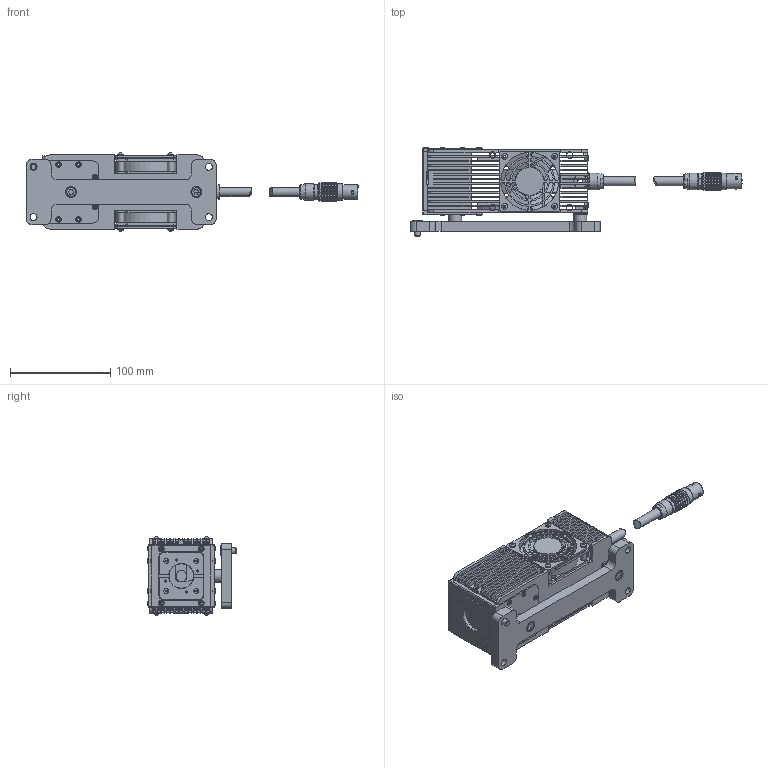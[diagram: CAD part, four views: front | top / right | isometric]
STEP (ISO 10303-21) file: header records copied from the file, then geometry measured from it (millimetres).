
FILE_DESCRIPTION (( 'STEP AP203' ), '1' );
FILE_NAME ('PQ.080.0000.0007.12_LDH-I_XXX.step', '2025-05-23T08:40:39', ( '' ), ( '' ), 'SwSTEP 2.0', 'SolidWorks 2019', '' );
FILE_SCHEMA (( 'CONFIG_CONTROL_DESIGN' ));
Length unit declared in the file: millimetre
Products named in the file (1): PQ.080.0000.0007.12_LDH-I_XXX
Bounding box: 331.5 x 88.7 x 77.9 mm (x, y, z)
Surface area: 190033.4 mm2 (no closed solid volume)
Topology: 0 solids, 77 shells, 1471 faces, 4878 edges, 3375 vertices
Faces by surface type: plane 936, cylinder 410, cone 80, torus 32, sphere 7, bspline 6
Full cylindrical faces by diameter (mm): 2 x2, 2.05 x4, 3.7 x1, 4.5 x20, 5 x6, 5.5 x30, 5.7 x7, 6 x1, 6.5 x14, 7 x4, 9 x2, 10 x2, 10.2 x1, 10.75 x1, 11 x2, 11.679 x1, 12 x4, 13 x2, 13.5 x1, 14 x1, 14.25 x1, 15 x2, 16.5 x3, 17 x1, 24.4 x1, 29 x2, 58 x2, 60 x2
Entity records: 53690 total; most frequent: CARTESIAN_POINT 12876, DIRECTION 8231, ORIENTED_EDGE 7825, EDGE_CURVE 4656, VERTEX_POINT 3340, AXIS2_PLACEMENT_3D 2889, VECTOR 2453, LINE 2453
